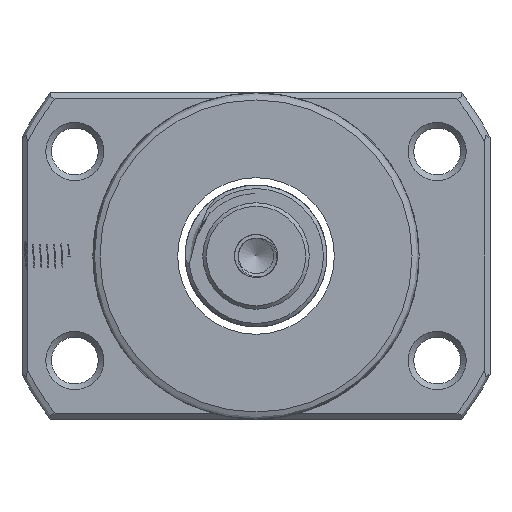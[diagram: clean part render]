
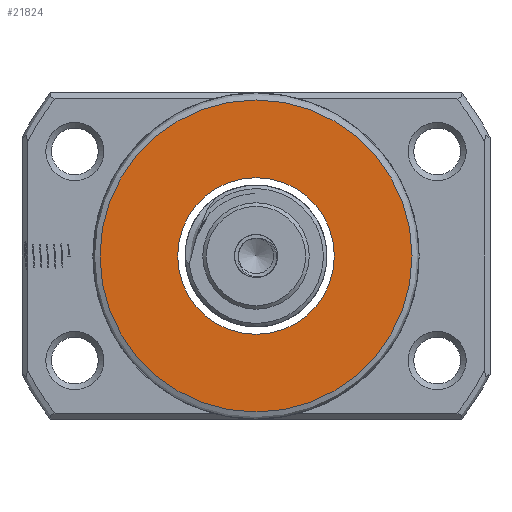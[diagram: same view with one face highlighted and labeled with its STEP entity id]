
A CAD part, left-side view. The second image highlights one B-rep face of the part: STEP entity #21824.
In plain terms, the highlighted planar face has unit normal (-1, 0, 0).
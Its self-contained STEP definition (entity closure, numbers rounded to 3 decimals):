
#245 = DIRECTION ( 'NONE',  ( 0., 0., 1. ) ) ;
#450 = FACE_OUTER_BOUND ( 'NONE', #7799, .T. ) ;
#756 = ORIENTED_EDGE ( 'NONE', *, *, #7476, .T. ) ;
#1396 = ORIENTED_EDGE ( 'NONE', *, *, #13688, .F. ) ;
#3864 = CARTESIAN_POINT ( 'NONE',  ( -53.324, 0., 11.05 ) ) ;
#4144 = CIRCLE ( 'NONE', #22631, 22. ) ;
#5098 = CARTESIAN_POINT ( 'NONE',  ( -53.324, 0., 0. ) ) ;
#5265 = DIRECTION ( 'NONE',  ( 0., 0., 1. ) ) ;
#7301 = DIRECTION ( 'NONE',  ( -1., 0., 0. ) ) ;
#7476 = EDGE_CURVE ( 'NONE', #8548, #8548, #4144, .T. ) ;
#7612 = CARTESIAN_POINT ( 'NONE',  ( -53.324, 0., 0. ) ) ;
#7649 = DIRECTION ( 'NONE',  ( -1., 0., 0. ) ) ;
#7799 = EDGE_LOOP ( 'NONE', ( #756 ) ) ;
#8548 = VERTEX_POINT ( 'NONE', #11368 ) ;
#8994 = EDGE_LOOP ( 'NONE', ( #1396 ) ) ;
#11368 = CARTESIAN_POINT ( 'NONE',  ( -53.324, 0., 22. ) ) ;
#12486 = DIRECTION ( 'NONE',  ( 0., 0., 1. ) ) ;
#13688 = EDGE_CURVE ( 'NONE', #25302, #25302, #20764, .T. ) ;
#18252 = AXIS2_PLACEMENT_3D ( 'NONE', #5098, #25924, #245 ) ;
#19525 = PLANE ( 'NONE',  #21947 ) ;
#19677 = CARTESIAN_POINT ( 'NONE',  ( -53.324, 11.05, 0. ) ) ;
#20764 = CIRCLE ( 'NONE', #18252, 11.05 ) ;
#21824 = ADVANCED_FACE ( 'NONE', ( #450, #24241 ), #19525, .T. ) ;
#21947 = AXIS2_PLACEMENT_3D ( 'NONE', #19677, #7649, #12486 ) ;
#22631 = AXIS2_PLACEMENT_3D ( 'NONE', #7612, #7301, #5265 ) ;
#24241 = FACE_BOUND ( 'NONE', #8994, .T. ) ;
#25302 = VERTEX_POINT ( 'NONE', #3864 ) ;
#25924 = DIRECTION ( 'NONE',  ( -1., 0., 0. ) ) ;
